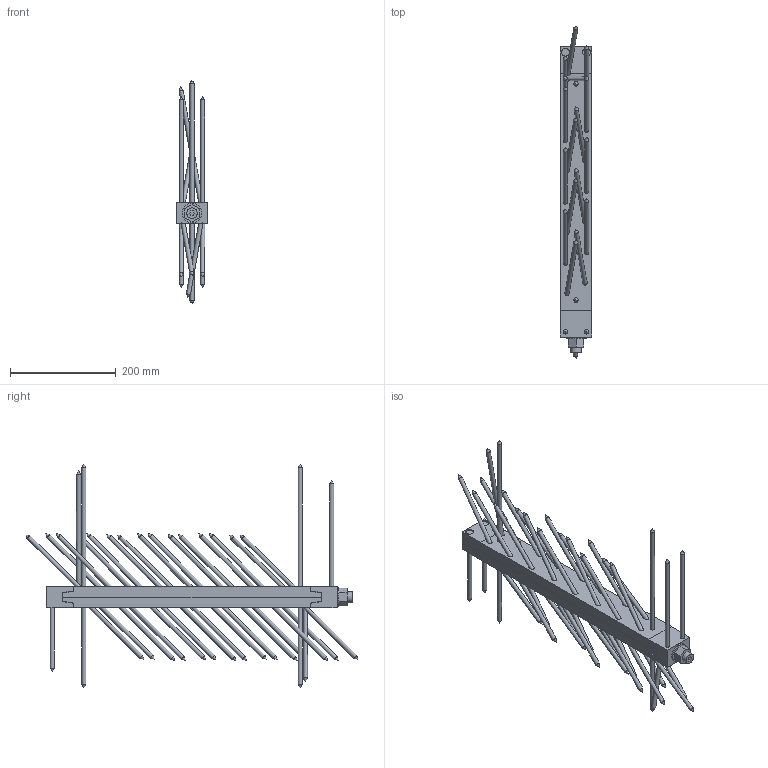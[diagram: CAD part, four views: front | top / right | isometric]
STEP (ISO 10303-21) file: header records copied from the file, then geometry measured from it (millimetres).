
FILE_DESCRIPTION(/* description */ ('Unknown'),/* implementation_level */ '2;1');
FILE_NAME(/* name */ 'MEGANT_550x60x40_Sichtbar',/* time_stamp */ '2023-11-09T15:24:51+01:00',/* author */ ('Unknown'),/* organization */ ('Unknown'),/* preprocessor_version */ 'ST-DEVELOPER v18.104',/* originating_system */ 'Solid Edge',/* authorisation */ 'Unknown');
FILE_SCHEMA (('AUTOMOTIVE_DESIGN {1 0 10303 214 3 1 1}'));
Length unit declared in the file: millimetre
Products named in the file (14): MEGANT_550x60x40_Sichtbar; Verbinderplatte_490x60x20_HT; Verbinderplatte_490x60x20; SK_Schraube_8x160; Verbinderplatte_490x60x20_NT; SK_Schraube_8x240; Spannbacke_oben_60x50x40_NT; Spannbacke_oben_60x50x40; Spannbacke_unten_60x50x40_HT; Spannbacke_unten_60x50x40; Gewindestange_M20_L580; Mutter_M20; Beilagscheibe_M20
Assembly tree (52 placements, depth 3):
  MEGANT_550x60x40_Sichtbar
    Verbinderplatte_490x60x20_HT
      Verbinderplatte_490x60x20
      SK_Schraube_8x160  x18
    Verbinderplatte_490x60x20_NT
      Verbinderplatte_490x60x20
      SK_Schraube_8x160  x15
      SK_Schraube_8x240  x3
    Spannbacke_oben_60x50x40_NT
      Spannbacke_oben_60x50x40
      SK_Schraube_8x240  x2
    Spannbacke_unten_60x50x40_HT
      Spannbacke_unten_60x50x40
      SK_Schraube_8x160  x2
    Gewindestange_M20_L580
      Gewindestange_M20_L580
      Mutter_M20
      Beilagscheibe_M20
Bounding box: 60 x 628.99 x 424 mm (x, y, z)
Volume: 1509272.4 mm3; surface area: 460392.4 mm2
Topology: 47 solids, 47 shells, 469 faces, 1071 edges, 665 vertices
Faces by surface type: plane 175, cylinder 174, cone 120
Full cylindrical faces by diameter (mm): 8 x40, 8.5 x40, 15 x80, 17.294 x1, 19.294 x1, 20 x1, 21 x2, 37 x1
Entity records: 5497 total; most frequent: DIRECTION 910, CARTESIAN_POINT 821, ORIENTED_EDGE 668, AXIS2_PLACEMENT_3D 349, EDGE_CURVE 334, FACE_BOUND 310, EDGE_LOOP 308, VERTEX_POINT 260
